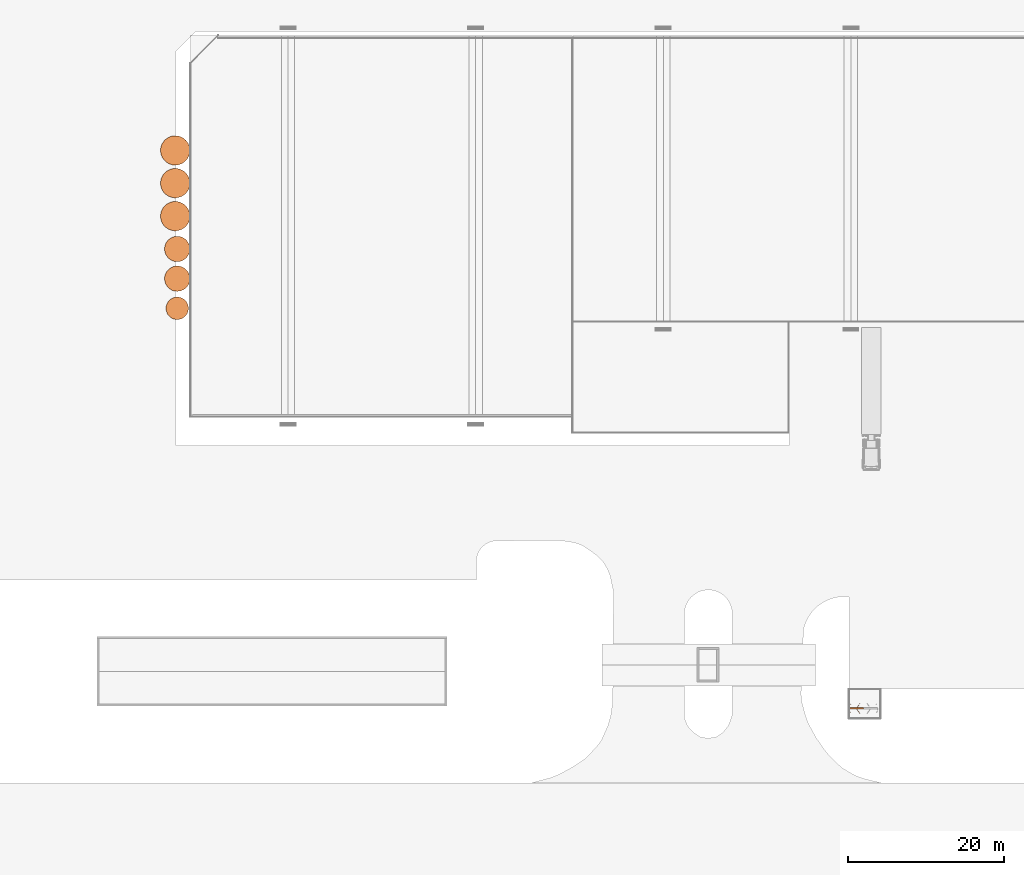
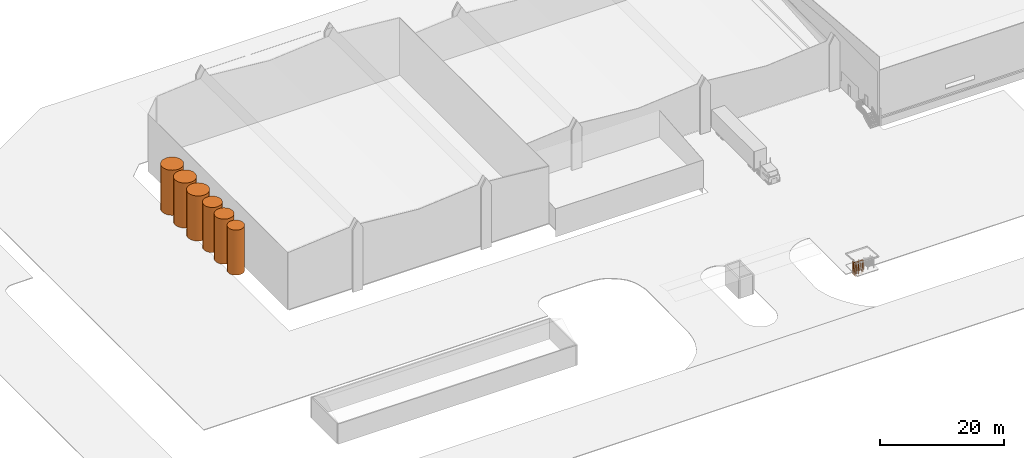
# One storey, part 61 of 64: 2 proxies.
"""IFC2X3 building model written with IfcOpenShell, lengths in millimetres."""

from ifc_helpers import new_model, entity, si_unit, converted_unit, derived_unit, direction, frame, frame_2d, origin, origin_2d_with_axis, place, context, subcontext, project, spatial, polyline, circle_curve, parameter, trimmed, segment, composite_curve, rectangle, circle, outline, extrude, source, transform, mapped, material, type_object, type_shapes, element, save


model = new_model("IFC2X3")

# Units and contexts
model_context = context("Model", 3, precision=0.01, world=origin(), true_north=direction((4.05803320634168e-15, -1.0)))
body_context = subcontext(model_context, "Body", "Model", "MODEL_VIEW")
ifc_project = project(units=[si_unit("LENGTHUNIT", "METRE", prefix="MILLI"), si_unit("AREAUNIT", "SQUARE_METRE"), si_unit("VOLUMEUNIT", "CUBIC_METRE"), converted_unit("PLANEANGLEUNIT", "DEGREE", entity("IfcRatioMeasure", 0.0174532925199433), si_unit("PLANEANGLEUNIT", "RADIAN"), dimensions=[0, 0, 0, 0, 0, 0, 0]), si_unit("MASSUNIT", "GRAM", prefix="KILO"), derived_unit("MASSDENSITYUNIT", [(si_unit("MASSUNIT", "GRAM", prefix="KILO"), 1), (si_unit("LENGTHUNIT", "METRE"), -3)]), si_unit("TIMEUNIT", "SECOND"), si_unit("FREQUENCYUNIT", "HERTZ"), si_unit("THERMODYNAMICTEMPERATUREUNIT", "DEGREE_CELSIUS"), derived_unit("THERMALTRANSMITTANCEUNIT", [(si_unit("MASSUNIT", "GRAM", prefix="KILO"), 1), (si_unit("THERMODYNAMICTEMPERATUREUNIT", "KELVIN"), -1), (si_unit("TIMEUNIT", "SECOND"), -3)]), derived_unit("VOLUMETRICFLOWRATEUNIT", [(si_unit("LENGTHUNIT", "METRE"), 3), (si_unit("TIMEUNIT", "SECOND"), -1)]), si_unit("ELECTRICCURRENTUNIT", "AMPERE"), si_unit("ELECTRICVOLTAGEUNIT", "VOLT"), si_unit("POWERUNIT", "WATT"), si_unit("FORCEUNIT", "NEWTON", prefix="KILO"), si_unit("ILLUMINANCEUNIT", "LUX"), si_unit("LUMINOUSFLUXUNIT", "LUMEN"), si_unit("LUMINOUSINTENSITYUNIT", "CANDELA"), derived_unit("USERDEFINED", [(si_unit("MASSUNIT", "GRAM", prefix="KILO"), -1), (si_unit("LENGTHUNIT", "METRE"), -2), (si_unit("TIMEUNIT", "SECOND"), 3), (si_unit("LUMINOUSFLUXUNIT", "LUMEN"), 1)]), derived_unit("LINEARVELOCITYUNIT", [(si_unit("LENGTHUNIT", "METRE"), 1), (si_unit("TIMEUNIT", "SECOND"), -1)]), si_unit("PRESSUREUNIT", "PASCAL"), derived_unit("USERDEFINED", [(si_unit("LENGTHUNIT", "METRE"), -2), (si_unit("MASSUNIT", "GRAM", prefix="KILO"), 1), (si_unit("TIMEUNIT", "SECOND"), -2)])], contexts=[model_context])

# Site, building, storey
site_placement = place(None, frame((927466.849349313, 583801.882853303, 0.0), z_axis=(0.0, 0.0, 1.0), x_axis=(-1.0, 0.0, 0.0)))
site = spatial("IfcSite", under=ifc_project, at=site_placement, Name="Surface", CompositionType="ELEMENT")
building_placement = place(site_placement, origin())
building = spatial("IfcBuilding", under=site, at=building_placement, CompositionType="ELEMENT")
storey_placement = place(building_placement, frame((0.0, 0.0, 44170.0)))
storey = spatial("IfcBuildingStorey", under=building, at=storey_placement, Name="Ground FFL", CompositionType="ELEMENT", Elevation=44170.0)

# Proxies
building_element_proxy_type_1 = type_object("IfcBuildingElementProxyType", Name="Generic Models 1", PredefinedType="NOTDEFINED")
shared_shape_1 = source(origin(), body_context, "Body", "SweptSolid", [
    extrude(outline(composite_curve([segment(trimmed(circle_curve(frame_2d((-0.134536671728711, 0.0425760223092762), x_axis=(1.0, 0.0)), 1429.89938830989), [parameter(89.9923229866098)], [parameter(180.000948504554)], True, "PARAMETER"), True, "CONTINUOUS"), segment(trimmed(circle_curve(frame_2d((-0.0811767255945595, -0.0702941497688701), x_axis=(1.0, 0.0)), 1429.95275084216), [parameter(179.996425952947)], [parameter(270.00508790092)], True, "PARAMETER"), True, "CONTINUOUS"), segment(trimmed(circle_curve(frame_2d((0.0316902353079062, -0.123651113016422), x_axis=(1.0, 0.0)), 1429.89938831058), [parameter(270.000565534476)], [parameter(0.00744634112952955)], True, "PARAMETER"), True, "CONTINUOUS"), segment(trimmed(circle_curve(frame_2d((0.0850653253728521, 0.0959502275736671), x_axis=(1.0, 0.0)), 1429.84600154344), [parameter(359.998646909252)], [parameter(90.0011224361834)], True, "PARAMETER"), True, "CONTINUOUS")], self_intersect=False)), frame((66992.3172835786, -3060.21488580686, 44170.0), z_axis=(0.0, 0.0, 1.0), x_axis=(-1.0, 0.0, 0.0)), (0.0, 0.0, 1.0), 8903.04751727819),
    extrude(outline(composite_curve([segment(trimmed(circle_curve(frame_2d((0.0165140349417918, 0.204314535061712), x_axis=(1.0, 0.0)), 1874.65853373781), [parameter(180.005923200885)], [parameter(270.001010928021)], True, "PARAMETER"), True, "CONTINUOUS"), segment(trimmed(circle_curve(frame_2d((0.100205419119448, -0.00914009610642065), x_axis=(1.0, 0.0)), 1874.44507949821), [parameter(269.998452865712)], [parameter(359.999077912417)], True, "PARAMETER"), True, "CONTINUOUS"), segment(trimmed(circle_curve(frame_2d((0.100206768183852, 0.0379330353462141), x_axis=(1.0, 0.0)), 1874.44507949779), [parameter(359.997639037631)], [parameter(90.0016222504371)], True, "PARAMETER"), True, "CONTINUOUS"), segment(trimmed(circle_curve(frame_2d((0.016514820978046, -0.175521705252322), x_axis=(1.0, 0.0)), 1874.65853373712), [parameter(89.9990641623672)], [parameter(179.994314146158)], True, "PARAMETER"), True, "CONTINUOUS")], self_intersect=False)), frame((67247.3841066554, -23249.0821617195, 44170.0), z_axis=(0.0, 0.0, 1.0), x_axis=(-1.0, 0.0, 0.0)), (0.0, 0.0, 1.0), 8903.04751727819),
    extrude(outline(composite_curve([segment(trimmed(circle_curve(frame_2d((0.0165140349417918, 0.204314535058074), x_axis=(1.0, 0.0)), 1874.65853373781), [parameter(180.005923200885)], [parameter(270.001010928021)], True, "PARAMETER"), True, "CONTINUOUS"), segment(trimmed(circle_curve(frame_2d((0.100205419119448, -0.00914009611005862), x_axis=(1.0, 0.0)), 1874.44507949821), [parameter(269.998452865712)], [parameter(359.999077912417)], True, "PARAMETER"), True, "CONTINUOUS"), segment(trimmed(circle_curve(frame_2d((0.100206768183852, 0.0379330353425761), x_axis=(1.0, 0.0)), 1874.44507949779), [parameter(359.997639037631)], [parameter(90.0016222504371)], True, "PARAMETER"), True, "CONTINUOUS"), segment(trimmed(circle_curve(frame_2d((0.016514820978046, -0.17552170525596), x_axis=(1.0, 0.0)), 1874.65853373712), [parameter(89.9990641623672)], [parameter(179.994314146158)], True, "PARAMETER"), True, "CONTINUOUS")], self_intersect=False)), frame((67247.3841066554, -19069.0821617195, 44170.0), z_axis=(0.0, 0.0, 1.0), x_axis=(-1.0, 0.0, 0.0)), (0.0, 0.0, 1.0), 8903.04751727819),
    extrude(outline(composite_curve([segment(trimmed(circle_curve(frame_2d((0.0165140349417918, 0.204314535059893), x_axis=(1.0, 0.0)), 1874.65853373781), [parameter(180.005923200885)], [parameter(270.001010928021)], True, "PARAMETER"), True, "CONTINUOUS"), segment(trimmed(circle_curve(frame_2d((0.100205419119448, -0.00914009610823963), x_axis=(1.0, 0.0)), 1874.44507949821), [parameter(269.998452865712)], [parameter(359.999077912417)], True, "PARAMETER"), True, "CONTINUOUS"), segment(trimmed(circle_curve(frame_2d((0.100206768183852, 0.0379330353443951), x_axis=(1.0, 0.0)), 1874.44507949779), [parameter(359.997639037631)], [parameter(90.0016222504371)], True, "PARAMETER"), True, "CONTINUOUS"), segment(trimmed(circle_curve(frame_2d((0.016514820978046, -0.175521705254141), x_axis=(1.0, 0.0)), 1874.65853373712), [parameter(89.9990641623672)], [parameter(179.994314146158)], True, "PARAMETER"), True, "CONTINUOUS")], self_intersect=False)), frame((67247.3841066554, -14848.9789715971, 44170.0), z_axis=(0.0, 0.0, 1.0), x_axis=(-1.0, 0.0, 0.0)), (0.0, 0.0, 1.0), 8903.04751727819),
    extrude(outline(composite_curve([segment(trimmed(circle_curve(frame_2d((0.0319163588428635, 0.0679870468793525), x_axis=(1.0, 0.0)), 1616.12724945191), [parameter(180.002814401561)], [parameter(270.001276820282)], True, "PARAMETER"), True, "CONTINUOUS"), segment(trimmed(circle_curve(frame_2d((-0.111224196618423, 0.0146324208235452), x_axis=(1.0, 0.0)), 1616.07390435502), [parameter(270.006351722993)], [parameter(0.00203063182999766)], True, "PARAMETER"), True, "CONTINUOUS"), segment(trimmed(circle_curve(frame_2d((0.102228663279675, 0.138300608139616), x_axis=(1.0, 0.0)), 1615.86045184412), [parameter(359.997645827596)], [parameter(90.0013299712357)], True, "PARAMETER"), True, "CONTINUOUS"), segment(trimmed(circle_curve(frame_2d((-0.181493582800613, 0.0849303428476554), x_axis=(1.0, 0.0)), 1615.91384043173), [parameter(89.9912699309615)], [parameter(180.003415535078)], True, "PARAMETER"), True, "CONTINUOUS")], self_intersect=False)), frame((66992.3023815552, -10648.8517529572, 44170.0), z_axis=(0.0, 0.0, 1.0), x_axis=(-1.0, 0.0, 0.0)), (0.0, 0.0, 1.0), 8903.04751727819),
    extrude(outline(composite_curve([segment(trimmed(circle_curve(frame_2d((-0.171690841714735, -0.0482792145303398), x_axis=(1.0, 0.0)), 1615.91384043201), [parameter(180.003439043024)], [parameter(270.008122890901)], True, "PARAMETER"), True, "CONTINUOUS"), segment(trimmed(circle_curve(frame_2d((0.112032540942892, -0.101652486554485), x_axis=(1.0, 0.0)), 1615.8604518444), [parameter(269.998062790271)], [parameter(0.00401095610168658)], True, "PARAMETER"), True, "CONTINUOUS"), segment(trimmed(circle_curve(frame_2d((-0.101423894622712, 0.022012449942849), x_axis=(1.0, 0.0)), 1616.07390435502), [parameter(359.999626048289)], [parameter(89.9944311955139)], True, "PARAMETER"), True, "CONTINUOUS"), segment(trimmed(circle_curve(frame_2d((0.0417170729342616, -0.0313402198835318), x_axis=(1.0, 0.0)), 1616.12724945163), [parameter(89.9995060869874)], [parameter(180.004039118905)], True, "PARAMETER"), True, "CONTINUOUS")], self_intersect=False)), frame((66992.3121852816, -6854.556047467, 44170.0), z_axis=(0.0, 0.0, 1.0), x_axis=(-1.0, 0.0, 0.0)), (0.0, 0.0, 1.0), 8903.04751727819),
])
type_shapes(building_element_proxy_type_1, [shared_shape_1])
proxy_1_placement = place(storey_placement, frame((0.0, 0.0, -44170.0)))
element("IfcBuildingElementProxy", 1, at=proxy_1_placement, inside=storey, type_object=building_element_proxy_type_1, Name="Generic Models 17:Generic Models 1", ObjectType="Generic Models 1", context=body_context, shape_type="MappedRepresentation", body=[
    mapped(shared_shape_1, transform((0.0, 0.0, 0.0), scale=1.0)),
])
ifc_material = material(Name="metal")
building_element_proxy_type_2 = type_object("IfcBuildingElementProxyType", Name="turnstile", PredefinedType="NOTDEFINED", material=ifc_material)
shared_shape_2 = source(origin(), body_context, "Body", "SweptSolid", [
    extrude(outline(polyline([(-761.333333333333, 546.002047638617), (1562.66666666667, 546.002047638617), (1562.66666666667, 621.174640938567), (-801.333333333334, 621.174640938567), (-801.333333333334, -1167.17668857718), (-761.333333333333, -1167.17668857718), (-761.333333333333, 546.002047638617)])), frame((-306.647232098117, -123.692154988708, 1562.66666666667), z_axis=(0.0, 1.0, 0.0), x_axis=(0.0, 0.0, -1.0)), (0.0, 0.0, 1.0), 206.680121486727),
    extrude(circle(Radius=25.0, at=origin_2d_with_axis()), frame((334.415185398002, -829.159621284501, 0.0)), (0.0, 0.0, 1.0), 2324.0),
    extrude(circle(Radius=25.0, at=frame_2d((0.0, -1.35358391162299e-13), x_axis=(1.0, 0.0))), frame((460.972571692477, 772.984015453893, 0.0)), (0.0, 0.0, 1.0), 2324.0),
    extrude(circle(Radius=25.0, at=frame_2d((0.0, -1.35358391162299e-13), x_axis=(1.0, 0.0))), frame((628.922664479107, 635.772859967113, 0.0)), (0.0, 0.0, 1.0), 2324.0),
    extrude(circle(Radius=25.0, at=frame_2d((0.0, -6.76791955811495e-14), x_axis=(1.0, 0.0))), frame((885.529456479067, 155.795903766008, 0.0)), (0.0, 0.0, 1.0), 2324.0),
    extrude(circle(Radius=25.0, at=frame_2d((0.0, -6.76791955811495e-14), x_axis=(1.0, 0.0))), frame((750.082223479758, 493.671776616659, 0.0)), (0.0, 0.0, 1.0), 2324.0),
    extrude(circle(Radius=25.0, at=origin_2d_with_axis()), frame((826.815063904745, 334.353193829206, 0.0)), (0.0, 0.0, 1.0), 2324.0),
    extrude(circle(Radius=25.0, at=frame_2d((0.0, 5.07593966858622e-14), x_axis=(1.0, 0.0))), frame((895.529456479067, -49.2040962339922, 0.0)), (0.0, 0.0, 1.0), 2324.0),
    extrude(circle(Radius=25.0, at=frame_2d((0.0, -3.38395977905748e-14), x_axis=(1.0, 0.0))), frame((862.441450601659, -257.283392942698, 0.0)), (0.0, 0.0, 1.0), 2324.0),
    extrude(circle(Radius=25.0, at=frame_2d((0.0, -6.76791955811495e-14), x_axis=(1.0, 0.0))), frame((783.316799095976, -440.405217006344, 0.0)), (0.0, 0.0, 1.0), 2324.0),
    extrude(circle(Radius=25.0, at=origin_2d_with_axis()), frame((697.931913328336, -566.993515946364, 0.0)), (0.0, 0.0, 1.0), 2324.0),
    extrude(circle(Radius=25.0, at=origin_2d_with_axis()), frame((561.816309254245, -703.109120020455, 0.0)), (0.0, 0.0, 1.0), 2324.0),
    extrude(rectangle(XDim=32.9097025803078, YDim=780.0, at=origin_2d_with_axis()), frame((-259.236248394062, 334.808632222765, 75.1291716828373), z_axis=(0.0, 0.0, 1.0), x_axis=(0.809016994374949, 0.587785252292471, 0.0)), (0.0, 0.0, 1.0), 40.0000000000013),
    extrude(rectangle(XDim=32.9097025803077, YDim=780.0, at=origin_2d_with_axis()), frame((-259.236248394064, 334.808632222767, 2165.12917168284), z_axis=(0.0, 0.0, 1.0), x_axis=(0.809016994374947, 0.587785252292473, 0.0)), (0.0, 0.0, 1.0), 40.0000000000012),
    extrude(rectangle(XDim=32.9097025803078, YDim=780.0, at=origin_2d_with_axis()), frame((-259.236248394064, 334.808632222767, 1975.12917168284), z_axis=(0.0, 0.0, 1.0), x_axis=(0.809016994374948, 0.587785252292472, 0.0)), (0.0, 0.0, 1.0), 40.0000000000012),
    extrude(rectangle(XDim=32.9097025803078, YDim=780.0, at=origin_2d_with_axis()), frame((-259.236248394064, 334.808632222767, 1785.12917168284), z_axis=(0.0, 0.0, 1.0), x_axis=(0.80901699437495, 0.58778525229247, 0.0)), (0.0, 0.0, 1.0), 40.0000000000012),
    extrude(rectangle(XDim=32.9097025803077, YDim=780.0, at=frame_2d((-1.59872115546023e-14, 2.8421709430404e-14), x_axis=(1.0, 0.0))), frame((-259.236248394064, 334.808632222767, 1595.12917168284), z_axis=(0.0, 0.0, 1.0), x_axis=(0.809016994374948, 0.587785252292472, 0.0)), (0.0, 0.0, 1.0), 40.0000000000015),
    extrude(rectangle(XDim=32.9097025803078, YDim=780.0, at=origin_2d_with_axis()), frame((-259.236248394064, 334.808632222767, 1405.12917168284), z_axis=(0.0, 0.0, 1.0), x_axis=(0.80901699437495, 0.58778525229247, 0.0)), (0.0, 0.0, 1.0), 40.0000000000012),
    extrude(rectangle(XDim=32.9097025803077, YDim=780.0, at=origin_2d_with_axis()), frame((-259.236248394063, 334.808632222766, 1215.12917168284), z_axis=(0.0, 0.0, 1.0), x_axis=(0.809016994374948, 0.587785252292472, 0.0)), (0.0, 0.0, 1.0), 40.0000000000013),
    extrude(rectangle(XDim=32.9097025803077, YDim=780.0, at=origin_2d_with_axis()), frame((-259.236248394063, 334.808632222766, 1025.12917168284), z_axis=(0.0, 0.0, 1.0), x_axis=(0.809016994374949, 0.587785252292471, 0.0)), (0.0, 0.0, 1.0), 40.0000000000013),
    extrude(rectangle(XDim=32.9097025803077, YDim=780.0, at=origin_2d_with_axis()), frame((-259.236248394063, 334.808632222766, 835.129171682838), z_axis=(0.0, 0.0, 1.0), x_axis=(0.809016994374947, 0.587785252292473, 0.0)), (0.0, 0.0, 1.0), 40.0000000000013),
    extrude(rectangle(XDim=32.9097025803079, YDim=780.0, at=frame_2d((3.37507799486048e-14, 0.0), x_axis=(1.0, 0.0))), frame((-259.236248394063, 334.808632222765, 645.129171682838), z_axis=(0.0, 0.0, 1.0), x_axis=(0.809016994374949, 0.58778525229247, 0.0)), (0.0, 0.0, 1.0), 40.0000000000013),
    extrude(rectangle(XDim=32.9097025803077, YDim=780.0, at=origin_2d_with_axis()), frame((-259.236248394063, 334.808632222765, 455.129171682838), z_axis=(0.0, 0.0, 1.0), x_axis=(0.809016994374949, 0.587785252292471, 0.0)), (0.0, 0.0, 1.0), 40.0000000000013),
    extrude(rectangle(XDim=32.9097025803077, YDim=780.0, at=origin_2d_with_axis()), frame((-259.236248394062, 334.808632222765, 265.129171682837), z_axis=(0.0, 0.0, 1.0), x_axis=(0.80901699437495, 0.58778525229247, 0.0)), (0.0, 0.0, 1.0), 40.0000000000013),
    extrude(rectangle(XDim=32.9097025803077, YDim=780.0, at=frame_2d((-8.34887714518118e-14, 2.8421709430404e-14), x_axis=(1.0, 0.0))), frame((-259.236248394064, -334.808632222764, 75.1291716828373), z_axis=(0.0, 0.0, 1.0), x_axis=(0.809016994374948, -0.587785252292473, 0.0)), (0.0, 0.0, 1.0), 40.0000000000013),
    extrude(rectangle(XDim=32.9097025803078, YDim=780.0, at=frame_2d((0.0, 2.8421709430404e-14), x_axis=(1.0, 0.0))), frame((-259.236248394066, -334.808632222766, 2165.12917168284), z_axis=(0.0, 0.0, 1.0), x_axis=(0.809016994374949, -0.587785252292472, 0.0)), (0.0, 0.0, 1.0), 40.0000000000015),
    extrude(rectangle(XDim=32.9097025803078, YDim=780.0, at=frame_2d((0.0, 5.6843418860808e-14), x_axis=(1.0, 0.0))), frame((-259.236248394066, -334.808632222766, 1975.12917168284), z_axis=(0.0, 0.0, 1.0), x_axis=(0.809016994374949, -0.587785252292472, 0.0)), (0.0, 0.0, 1.0), 40.0000000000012),
    extrude(rectangle(XDim=32.9097025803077, YDim=780.0, at=origin_2d_with_axis()), frame((-259.236248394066, -334.808632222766, 1785.12917168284), z_axis=(0.0, 0.0, 1.0), x_axis=(0.809016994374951, -0.587785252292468, 0.0)), (0.0, 0.0, 1.0), 40.0000000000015),
    extrude(rectangle(XDim=32.9097025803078, YDim=780.0, at=frame_2d((-3.37507799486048e-14, 2.8421709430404e-14), x_axis=(1.0, 0.0))), frame((-259.236248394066, -334.808632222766, 1595.12917168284), z_axis=(0.0, 0.0, 1.0), x_axis=(0.809016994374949, -0.587785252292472, 0.0)), (0.0, 0.0, 1.0), 40.0000000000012),
    extrude(rectangle(XDim=32.9097025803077, YDim=780.0, at=frame_2d((1.59872115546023e-14, -5.6843418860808e-14), x_axis=(1.0, 0.0))), frame((-259.236248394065, -334.808632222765, 1405.12917168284), z_axis=(0.0, 0.0, 1.0), x_axis=(0.809016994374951, -0.587785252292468, 0.0)), (0.0, 0.0, 1.0), 40.0000000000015),
    extrude(rectangle(XDim=32.9097025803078, YDim=780.0, at=frame_2d((-1.59872115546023e-14, -2.8421709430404e-14), x_axis=(1.0, 0.0))), frame((-259.236248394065, -334.808632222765, 1215.12917168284), z_axis=(0.0, 0.0, 1.0), x_axis=(0.809016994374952, -0.587785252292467, 0.0)), (0.0, 0.0, 1.0), 40.0000000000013),
    extrude(rectangle(XDim=32.9097025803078, YDim=780.0, at=frame_2d((-3.37507799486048e-14, -2.8421709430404e-14), x_axis=(1.0, 0.0))), frame((-259.236248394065, -334.808632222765, 1025.12917168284), z_axis=(0.0, 0.0, 1.0), x_axis=(0.809016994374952, -0.587785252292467, 0.0)), (0.0, 0.0, 1.0), 40.0000000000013),
    extrude(rectangle(XDim=32.9097025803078, YDim=780.0, at=frame_2d((1.77635683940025e-14, -2.8421709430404e-14), x_axis=(1.0, 0.0))), frame((-259.236248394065, -334.808632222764, 835.129171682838), z_axis=(0.0, 0.0, 1.0), x_axis=(0.809016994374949, -0.587785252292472, 0.0)), (0.0, 0.0, 1.0), 40.0000000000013),
    extrude(rectangle(XDim=32.9097025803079, YDim=780.0, at=frame_2d((1.77635683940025e-14, 2.8421709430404e-14), x_axis=(1.0, 0.0))), frame((-259.236248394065, -334.808632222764, 645.129171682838), z_axis=(0.0, 0.0, 1.0), x_axis=(0.809016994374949, -0.587785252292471, 0.0)), (0.0, 0.0, 1.0), 40.0000000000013),
    extrude(rectangle(XDim=32.9097025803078, YDim=780.0, at=frame_2d((-3.37507799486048e-14, 5.6843418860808e-14), x_axis=(1.0, 0.0))), frame((-259.236248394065, -334.808632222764, 455.129171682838), z_axis=(0.0, 0.0, 1.0), x_axis=(0.809016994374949, -0.587785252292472, 0.0)), (0.0, 0.0, 1.0), 40.0000000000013),
    extrude(rectangle(XDim=32.9097025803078, YDim=780.0, at=frame_2d((-4.9737991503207e-14, 2.8421709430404e-14), x_axis=(1.0, 0.0))), frame((-259.236248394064, -334.808632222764, 265.129171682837), z_axis=(0.0, 0.0, 1.0), x_axis=(0.809016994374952, -0.587785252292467, 0.0)), (0.0, 0.0, 1.0), 40.0000000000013),
    extrude(rectangle(XDim=32.9097025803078, YDim=780.0, at=origin_2d_with_axis()), frame((425.0, -4.29200441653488, 75.1291716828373), z_axis=(0.0, 0.0, 1.0), x_axis=(0.0, 1.0, 0.0)), (0.0, 0.0, 1.0), 40.0000000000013),
    extrude(rectangle(XDim=32.9097025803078, YDim=780.0, at=origin_2d_with_axis()), frame((425.0, -4.29200441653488, 2165.12917168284), z_axis=(0.0, 0.0, 1.0), x_axis=(0.0, 1.0, 0.0)), (0.0, 0.0, 1.0), 40.0000000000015),
    extrude(rectangle(XDim=32.9097025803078, YDim=780.0, at=origin_2d_with_axis()), frame((425.0, -4.29200441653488, 1975.12917168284), z_axis=(0.0, 0.0, 1.0), x_axis=(0.0, 1.0, 0.0)), (0.0, 0.0, 1.0), 40.0000000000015),
    extrude(rectangle(XDim=32.9097025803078, YDim=780.0, at=origin_2d_with_axis()), frame((425.0, -4.29200441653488, 1785.12917168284), z_axis=(0.0, 0.0, 1.0), x_axis=(0.0, 1.0, 0.0)), (0.0, 0.0, 1.0), 40.0000000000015),
    extrude(rectangle(XDim=32.9097025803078, YDim=780.0, at=origin_2d_with_axis()), frame((425.0, -4.29200441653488, 1595.12917168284), z_axis=(0.0, 0.0, 1.0), x_axis=(0.0, 1.0, 0.0)), (0.0, 0.0, 1.0), 40.0000000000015),
    extrude(rectangle(XDim=32.9097025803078, YDim=780.0, at=origin_2d_with_axis()), frame((425.0, -4.29200441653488, 1405.12917168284), z_axis=(0.0, 0.0, 1.0), x_axis=(0.0, 1.0, 0.0)), (0.0, 0.0, 1.0), 40.0000000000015),
    extrude(rectangle(XDim=32.9097025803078, YDim=780.0, at=origin_2d_with_axis()), frame((425.0, -4.29200441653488, 1215.12917168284), z_axis=(0.0, 0.0, 1.0), x_axis=(0.0, 1.0, 0.0)), (0.0, 0.0, 1.0), 40.0000000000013),
    extrude(rectangle(XDim=32.9097025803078, YDim=780.0, at=origin_2d_with_axis()), frame((425.0, -4.29200441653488, 1025.12917168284), z_axis=(0.0, 0.0, 1.0), x_axis=(0.0, 1.0, 0.0)), (0.0, 0.0, 1.0), 40.0000000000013),
    extrude(rectangle(XDim=32.9097025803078, YDim=780.0, at=origin_2d_with_axis()), frame((425.0, -4.29200441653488, 835.129171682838), z_axis=(0.0, 0.0, 1.0), x_axis=(0.0, 1.0, 0.0)), (0.0, 0.0, 1.0), 40.0000000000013),
    extrude(rectangle(XDim=32.9097025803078, YDim=780.0, at=origin_2d_with_axis()), frame((425.0, -4.29200441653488, 645.129171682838), z_axis=(0.0, 0.0, 1.0), x_axis=(0.0, 1.0, 0.0)), (0.0, 0.0, 1.0), 40.0000000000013),
    extrude(rectangle(XDim=32.9097025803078, YDim=780.0, at=origin_2d_with_axis()), frame((425.0, -4.29200441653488, 455.129171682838), z_axis=(0.0, 0.0, 1.0), x_axis=(0.0, 1.0, 0.0)), (0.0, 0.0, 1.0), 40.0000000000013),
    extrude(rectangle(XDim=32.9097025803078, YDim=780.0, at=origin_2d_with_axis()), frame((425.0, -4.29200441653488, 265.129171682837), z_axis=(0.0, 0.0, 1.0), x_axis=(0.0, 1.0, 0.0)), (0.0, 0.0, 1.0), 40.0000000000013),
    extrude(circle(Radius=35.0, at=frame_2d((-1.16802061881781e-15, -5.65440601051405e-14), x_axis=(1.0, 0.0))), origin(), (0.0, 0.0, 1.0), 2324.0),
])
type_shapes(building_element_proxy_type_2, [shared_shape_2])
proxy_2_placement = place(storey_placement, frame((-19833.8846753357, 48120.437372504, 0.0)))
element("IfcBuildingElementProxy", 2, at=proxy_2_placement, inside=storey, type_object=building_element_proxy_type_2, material=ifc_material, Name="turnstile:turnstile", ObjectType="turnstile", context=body_context, shape_type="MappedRepresentation", body=[
    mapped(shared_shape_2, transform((0.0, 0.0, 0.0), scale=1.0)),
])

save(model, "model.ifc")
